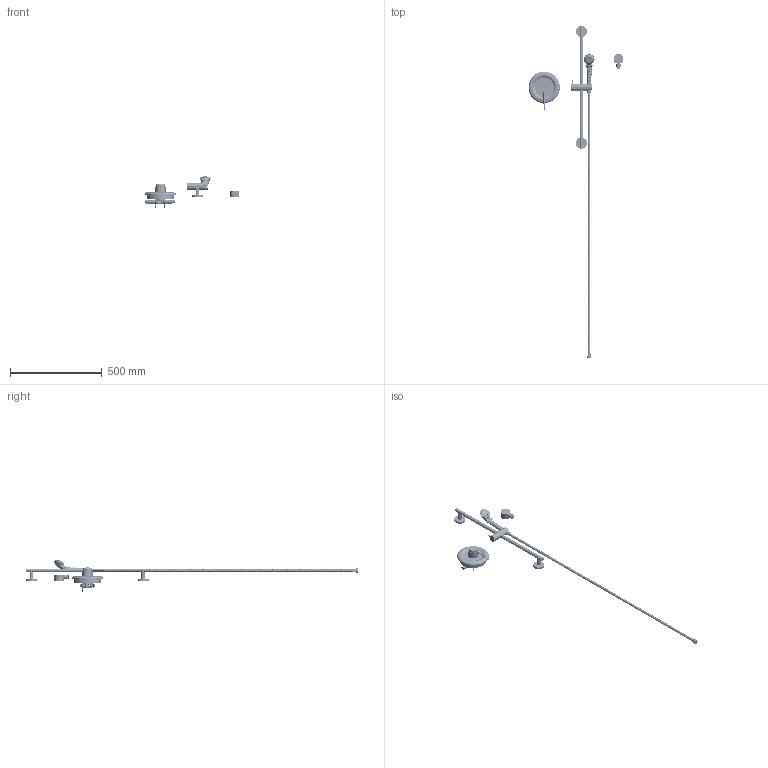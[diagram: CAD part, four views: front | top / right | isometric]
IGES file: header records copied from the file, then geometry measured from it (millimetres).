
Start section:  PTC IGES file: sh-pb1-00-011_REV070122.igs
Global section: file name: sh-pb1-00-011_REV070122.igs; native system: Creo Parametric by PTC Inc.; preprocessor: 2021184; author: rodjo; organization: Unknown; date: 20220701.114000; units: inch
Bounding box: 519.14 x 1813.75 x 173.01 mm (x, y, z)
Surface area: 439427.5 mm2 (no closed solid volume)
Topology: 0 solids, 0 shells, 1296 faces, 10377 edges, 14215 vertices
Faces by surface type: revolution 695, bspline 601
